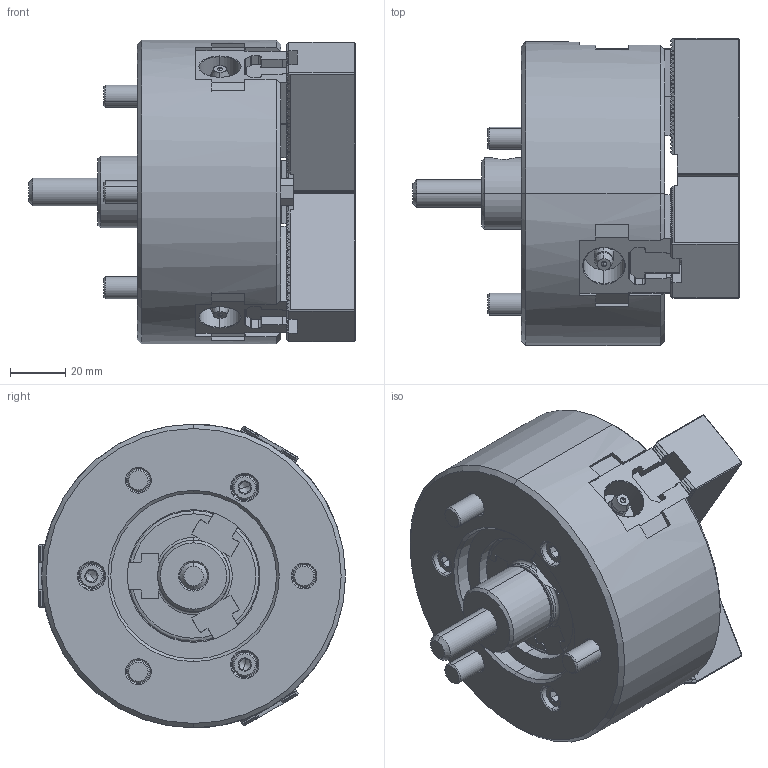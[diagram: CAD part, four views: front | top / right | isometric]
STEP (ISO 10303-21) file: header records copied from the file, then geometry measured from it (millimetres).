
FILE_DESCRIPTION (( 'STEP AP214' ), '1' );
FILE_NAME ('DT1_N-04_OUTSIDE_VIEW_HOL.STEP', '2026-03-13T01:36:00', ( '' ), ( '' ), 'SwSTEP 2.0', 'SolidWorks 2022', '' );
FILE_SCHEMA (( 'AUTOMOTIVE_DESIGN' ));
Length unit declared in the file: millimetre
Products named in the file (10): DT1_N-04_M3x8^DT1_N-04; DT1_N-04_OUTSIDE_VIEW_HOL; DT1_N-04_M8x55^DT1_N-04; DT1_N-04_DN^DT1_N-04; DT1_N-04_DRAWSCREW^DT1_N-04; DT1_N-04_TNUT^DT1_N-04; DT1_N-04_SOFTJAW^DT1_N-04; DT1_N-04_M8x22^DT1_N-04; DT1_N-04_COVER^DT1_N-04; DT1_N-04_BASE^DT1_N-04
Assembly tree (22 placements, depth 2):
  DT1_N-04_OUTSIDE_VIEW_HOL
    DT1_N-04_SOFTJAW^DT1_N-04  x3
    DT1_N-04_TNUT^DT1_N-04  x3
    DT1_N-04_COVER^DT1_N-04
    DT1_N-04_DRAWSCREW^DT1_N-04
    DT1_N-04_DN^DT1_N-04
    DT1_N-04_BASE^DT1_N-04
    DT1_N-04_M8x22^DT1_N-04  x6
    DT1_N-04_M8x55^DT1_N-04  x3
    DT1_N-04_M3x8^DT1_N-04  x3
Bounding box: 118.25 x 111.16 x 110 mm (x, y, z)
Volume: 549106.3 mm3; surface area: 113452.5 mm2
Topology: 22 solids, 22 shells, 3355 faces, 9101 edges, 5830 vertices
Faces by surface type: plane 2222, cylinder 723, cone 258, bspline 90, torus 56, sphere 6
Entity records: 77360 total; most frequent: CARTESIAN_POINT 19483, ORIENTED_EDGE 12742, DIRECTION 10769, EDGE_CURVE 6371, LINE 4777, VECTOR 4777, VERTEX_POINT 4133, AXIS2_PLACEMENT_3D 2996
